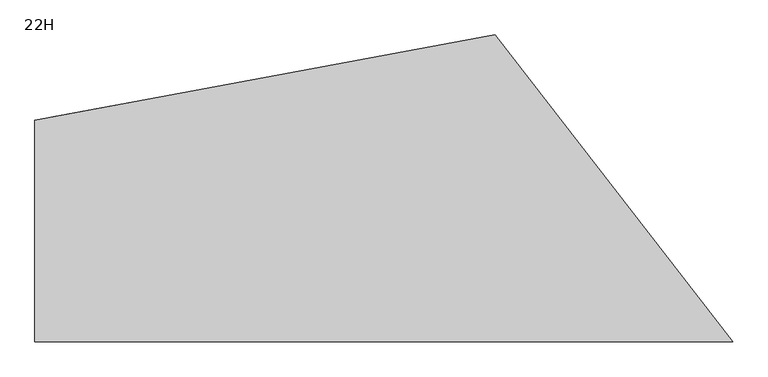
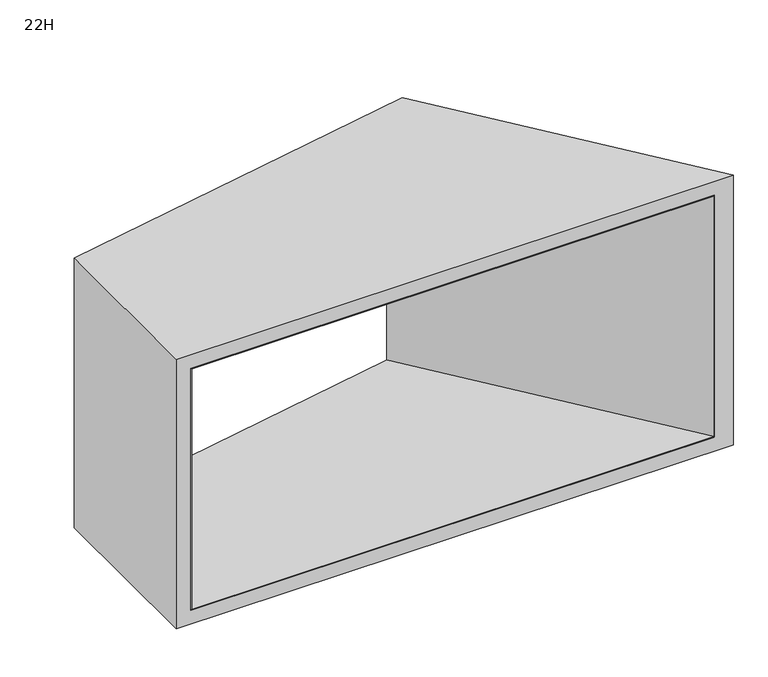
"""IFC4 building model written with IfcOpenShell, lengths in millimetres: furniture geometry, Steelcase Coalesse - Sebastopol - Table - Large : 22H."""

from ifc_helpers import new_model, si_unit, point, frame, frame_2d, origin, origin_with_axes, place, context, project, spatial, polyline, circle_curve, trimmed, segment, composite_curve, outline, extrude, faceted_brep, source, transform, mapped, element, save


def furniture_22h_ecc0bf9d(model_context):
    return source(origin(), model_context, "Body", "SolidModel", [
        extrude(outline(polyline([(-386.6129041, 451.557615), (-36.5419736, 0.0), (-1012.5201736, 0.0), (-1012.5201736, 335.5525594), (-386.6129041, 451.557615)])), frame((0.0, 0.0, 53.0098), z_axis=(0.0, 0.0, 1.0), x_axis=(1.0, 0.0, 0.0)), (0.0, 0.0, 1.0), 1.524),
        extrude(outline(composite_curve([segment(trimmed(circle_curve(frame_2d((-409.0244772, 393.2172198)), 4.826), [point((-413.8504772, 393.2172198))], [point((-404.1984772, 393.2172198))], False, "CARTESIAN"), True, "CONTINUOUS"), segment(trimmed(circle_curve(frame_2d((-409.0244772, 393.2172198)), 4.826), [point((-404.1984772, 393.2172198))], [point((-413.8504772, 393.2172198))], False, "CARTESIAN"), True, "CONTINUOUS")], self_intersect=False)), frame((0.0, 0.0, 13.97), z_axis=(0.0, 0.0, 1.0), x_axis=(1.0, 0.0, 0.0)), (0.0, 0.0, 1.0), 11.4300008),
        extrude(outline(composite_curve([segment(trimmed(circle_curve(frame_2d((-409.0099832, 393.153578)), 17.526), [point((-426.5359832, 393.153578))], [point((-391.4839832, 393.153578))], False, "CARTESIAN"), True, "CONTINUOUS"), segment(trimmed(circle_curve(frame_2d((-409.0099832, 393.153578)), 17.526), [point((-391.4839832, 393.153578))], [point((-426.5359832, 393.153578))], False, "CARTESIAN"), True, "CONTINUOUS")], self_intersect=False)), origin_with_axes(), (0.0, 0.0, 1.0), 13.97),
        extrude(outline(composite_curve([segment(trimmed(circle_curve(frame_2d((-987.4333665, 285.936034)), 4.826), [point((-992.2593665, 285.936034))], [point((-982.6073665, 285.936034))], False, "CARTESIAN"), True, "CONTINUOUS"), segment(trimmed(circle_curve(frame_2d((-987.4333665, 285.936034)), 4.826), [point((-982.6073665, 285.936034))], [point((-992.2593665, 285.936034))], False, "CARTESIAN"), True, "CONTINUOUS")], self_intersect=False)), frame((0.0, 0.0, 13.97), z_axis=(0.0, 0.0, 1.0), x_axis=(1.0, 0.0, 0.0)), (0.0, 0.0, 1.0), 11.4300008),
        extrude(outline(composite_curve([segment(trimmed(circle_curve(frame_2d((-987.4188726, 285.8723922)), 17.526), [point((-1004.9448726, 285.8723922))], [point((-969.8928726, 285.8723922))], False, "CARTESIAN"), True, "CONTINUOUS"), segment(trimmed(circle_curve(frame_2d((-987.4188726, 285.8723922)), 17.526), [point((-969.8928726, 285.8723922))], [point((-1004.9448726, 285.8723922))], False, "CARTESIAN"), True, "CONTINUOUS")], self_intersect=False)), origin_with_axes(), (0.0, 0.0, 1.0), 13.97),
        extrude(outline(composite_curve([segment(trimmed(circle_curve(frame_2d((-144.7693521, 53.3510514)), 4.826), [point((-149.5953521, 53.3510514))], [point((-139.9433521, 53.3510514))], False, "CARTESIAN"), True, "CONTINUOUS"), segment(trimmed(circle_curve(frame_2d((-144.7693521, 53.3510514)), 4.826), [point((-139.9433521, 53.3510514))], [point((-149.5953521, 53.3510514))], False, "CARTESIAN"), True, "CONTINUOUS")], self_intersect=False)), frame((0.0, 0.0, 13.97), z_axis=(0.0, 0.0, 1.0), x_axis=(1.0, 0.0, 0.0)), (0.0, 0.0, 1.0), 11.4300008),
        extrude(outline(composite_curve([segment(trimmed(circle_curve(frame_2d((-144.7548582, 53.2874096)), 17.526), [point((-162.2808582, 53.2874096))], [point((-127.2288582, 53.2874096))], False, "CARTESIAN"), True, "CONTINUOUS"), segment(trimmed(circle_curve(frame_2d((-144.7548582, 53.2874096)), 17.526), [point((-127.2288582, 53.2874096))], [point((-162.2808582, 53.2874096))], False, "CARTESIAN"), True, "CONTINUOUS")], self_intersect=False)), origin_with_axes(), (0.0, 0.0, 1.0), 13.97),
        extrude(outline(composite_curve([segment(trimmed(circle_curve(frame_2d((-987.4333665, 53.3510514)), 4.826), [point((-992.2593665, 53.3510514))], [point((-982.6073665, 53.3510514))], False, "CARTESIAN"), True, "CONTINUOUS"), segment(trimmed(circle_curve(frame_2d((-987.4333665, 53.3510514)), 4.826), [point((-982.6073665, 53.3510514))], [point((-992.2593665, 53.3510514))], False, "CARTESIAN"), True, "CONTINUOUS")], self_intersect=False)), frame((0.0, 0.0, 13.97), z_axis=(0.0, 0.0, 1.0), x_axis=(1.0, 0.0, 0.0)), (0.0, 0.0, 1.0), 11.4300008),
        extrude(outline(composite_curve([segment(trimmed(circle_curve(frame_2d((-987.4188726, 53.2874096)), 17.526), [point((-1004.9448726, 53.2874096))], [point((-969.8928726, 53.2874096))], False, "CARTESIAN"), True, "CONTINUOUS"), segment(trimmed(circle_curve(frame_2d((-987.4188726, 53.2874096)), 17.526), [point((-969.8928726, 53.2874096))], [point((-1004.9448726, 53.2874096))], False, "CARTESIAN"), True, "CONTINUOUS")], self_intersect=False)), origin_with_axes(), (0.0, 0.0, 1.0), 13.97),
        extrude(outline(polyline([(-385.2078427, 451.8180277), (-34.9350268, 0.0), (-36.5419734, 0.0), (-386.6129039, 451.557615), (-385.2078427, 451.8180277)])), frame((0.0, 0.0, 53.0098), z_axis=(0.0, 0.0, 1.0), x_axis=(1.0, 0.0, 0.0)), (0.0, 0.0, 1.0), 478.1803879),
        extrude(outline(polyline([(-1012.5201736, 0.0), (-1013.7902, 0.0), (-1013.7902, 335.317178), (-1012.5201736, 335.5525634), (-1012.5201736, 0.0)])), frame((0.0, 0.0, 53.0098), z_axis=(0.0, 0.0, 1.0), x_axis=(1.0, 0.0, 0.0)), (0.0, 0.0, 1.0), 478.1803879),
        extrude(outline(polyline([(-386.6129041, 451.557615), (-36.5419736, 0.0), (-1012.5201736, 0.0), (-1012.5201736, 335.5525594), (-386.6129041, 451.557615)])), frame((0.0, 0.0, 529.6661879), z_axis=(0.0, 0.0, 1.0), x_axis=(1.0, 0.0, 0.0)), (0.0, 0.0, 1.0), 1.524),
        faceted_brep([(-1041.4000242, 330.1999955, 558.8), (-1041.4000242, 0.0, 558.8), (0.0, 0.0, 558.8), (-354.6618066, 457.4794009, 558.8), (-1041.4000242, 330.1999955, 25.4000008), (-354.6618066, 457.4794009, 25.4000008), (0.0, 0.0, 25.4000008), (-1041.4000242, 0.0, 25.4000008), (-1013.7902, 0.0, 531.1901879), (-34.9350268, 0.0, 531.1901879), (-34.9350268, 0.0, 53.0098), (-1013.7902, 0.0, 53.0098), (-385.2078427, 451.8180277, 531.1901879), (-1013.7902, 335.317174, 531.1901879), (-1013.7902, 335.317174, 53.0098), (-385.2078427, 451.8180277, 53.0098)], [[[0, 1, 2, 3]], [[4, 5, 6, 7]], [[1, 0, 4, 7]], [[2, 1, 7, 6], [8, 9, 10, 11]], [[3, 2, 6, 5]], [[0, 3, 5, 4], [12, 13, 14, 15]], [[12, 9, 8, 13]], [[14, 11, 10, 15]], [[13, 8, 11, 14]], [[9, 12, 15, 10]]]),
    ])


if __name__ == "__main__":
    model = new_model("IFC4")
    model_context = context("Model", 3, world=origin())
    ifc_project = project(units=[si_unit("LENGTHUNIT", "METRE", prefix="MILLI")], contexts=[model_context])
    site = spatial("IfcSite", under=ifc_project)
    building = spatial("IfcBuilding", under=site)
    placement = place(None, origin())
    furniture_22h_shape = furniture_22h_ecc0bf9d(model_context)
    element("IfcFurniture", 1, ObjectType="Steelcase Coalesse - Sebastopol - Table - Large : 22H", at=placement, inside=building, context=model_context, shape_type="MappedRepresentation", body=[
        mapped(furniture_22h_shape, transform((0.0, 0.0, 0.0), x_axis=(1.0, 0.0, 0.0), y_axis=(0.0, 1.0, 0.0), z_axis=(0.0, 0.0, 1.0))),
    ])
    save(model, "model.ifc")
